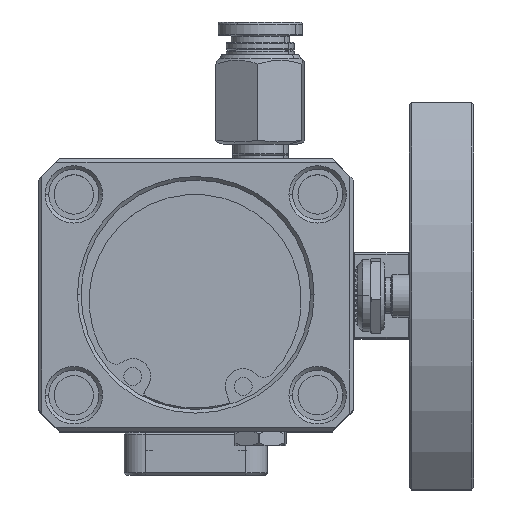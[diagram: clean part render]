
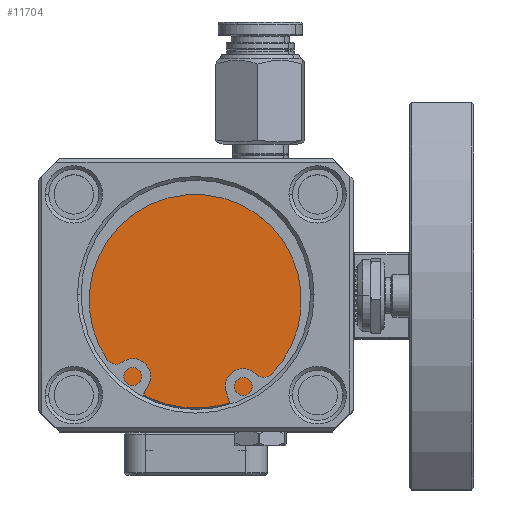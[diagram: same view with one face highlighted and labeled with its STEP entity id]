
A CAD part, top view. The second image highlights one B-rep face of the part: STEP entity #11704.
In plain terms, the highlighted planar face has unit normal (0, 0, 1).
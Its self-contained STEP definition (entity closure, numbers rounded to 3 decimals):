
#2227 = CARTESIAN_POINT ( 'NONE',  ( -12.695, 16.236, 50.8 ) ) ;
#11704 = ADVANCED_FACE ( 'NONE', ( #45395 ), #13769, .T. ) ;
#13769 = PLANE ( 'NONE',  #37732 ) ;
#14046 = DIRECTION ( 'NONE',  ( 0., 0., 1. ) ) ;
#20267 = EDGE_LOOP ( 'NONE', ( #68390, #22240 ) ) ;
#22240 = ORIENTED_EDGE ( 'NONE', *, *, #27565, .T. ) ;
#22467 = CARTESIAN_POINT ( 'NONE',  ( -12.695, 16.236, 50.8 ) ) ;
#22743 = CIRCLE ( 'NONE', #34057, 15.8 ) ;
#24188 = VERTEX_POINT ( 'NONE', #27718 ) ;
#27565 = EDGE_CURVE ( 'NONE', #29311, #24188, #22743, .T. ) ;
#27718 = CARTESIAN_POINT ( 'NONE',  ( -27.069, 9.675, 50.8 ) ) ;
#29311 = VERTEX_POINT ( 'NONE', #46833 ) ;
#31555 = EDGE_CURVE ( 'NONE', #24188, #29311, #45498, .T. ) ;
#34057 = AXIS2_PLACEMENT_3D ( 'NONE', #22467, #39870, #77065 ) ;
#37543 = AXIS2_PLACEMENT_3D ( 'NONE', #48320, #49124, #61404 ) ;
#37732 = AXIS2_PLACEMENT_3D ( 'NONE', #2227, #14046, #51537 ) ;
#39870 = DIRECTION ( 'NONE',  ( 0., 0., 1. ) ) ;
#45395 = FACE_OUTER_BOUND ( 'NONE', #20267, .T. ) ;
#45498 = CIRCLE ( 'NONE', #37543, 15.8 ) ;
#46833 = CARTESIAN_POINT ( 'NONE',  ( 1.678, 22.797, 50.8 ) ) ;
#48320 = CARTESIAN_POINT ( 'NONE',  ( -12.695, 16.236, 50.8 ) ) ;
#49124 = DIRECTION ( 'NONE',  ( 0., 0., 1. ) ) ;
#51537 = DIRECTION ( 'NONE',  ( 1., 0., 0. ) ) ;
#61404 = DIRECTION ( 'NONE',  ( 0.91, 0.415, 0. ) ) ;
#68390 = ORIENTED_EDGE ( 'NONE', *, *, #31555, .T. ) ;
#77065 = DIRECTION ( 'NONE',  ( 0.91, 0.415, 0. ) ) ;
